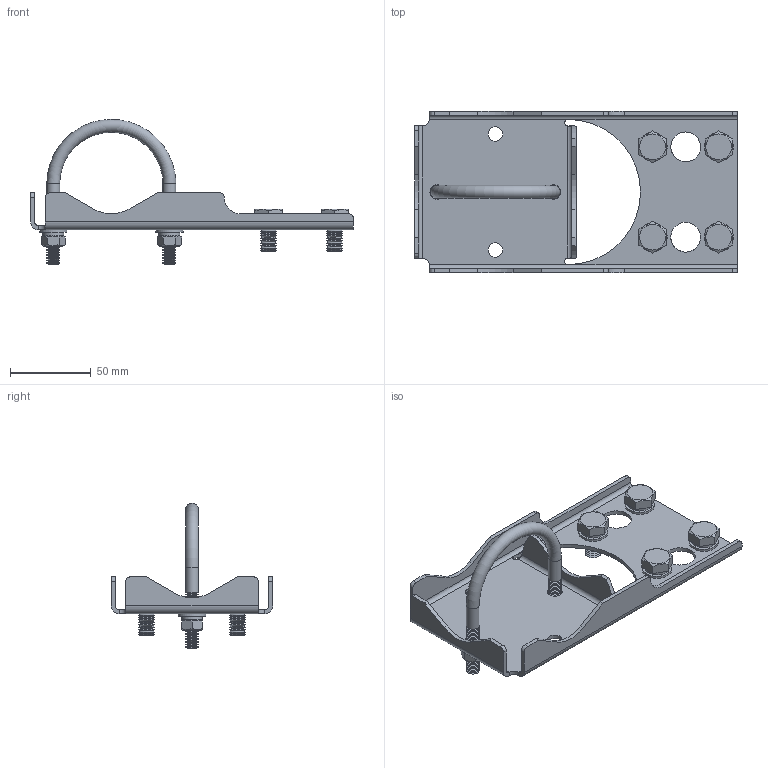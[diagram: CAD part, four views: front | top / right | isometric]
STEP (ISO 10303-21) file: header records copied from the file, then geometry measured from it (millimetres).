
FILE_DESCRIPTION(('STEP AP203'), '1');
FILE_NAME('ÊÐ4-1_3D', '2018-02-20T06:19:04', ('UNSPECIFIED'), ('UNSPECIFIED'), 'ASCON STEP Converter 1.3', 'ASCON Math Kernel', '');
FILE_SCHEMA(('CONFIG_CONTROL_DESIGN'));
Length unit declared in the file: millimetre
Bounding box: 200 x 100 x 90 mm (x, y, z)
Volume: 80139.3 mm3; surface area: 68782.6 mm2
Topology: 20 solids, 20 shells, 485 faces, 1361 edges, 918 vertices
Faces by surface type: cone 280, plane 135, cylinder 69, torus 1
Full cylindrical faces by diameter (mm): 8 x2, 9 x6, 10.5 x4, 17 x2, 18 x4, 18.5 x2
Entity records: 20621 total; most frequent: CARTESIAN_POINT 4584, DIRECTION 2700, ORIENTED_EDGE 2120, AXIS2_PLACEMENT_3D 1232, EDGE_CURVE 1060, VERTEX_POINT 918, EDGE_LOOP 826, FACE_BOUND 818
